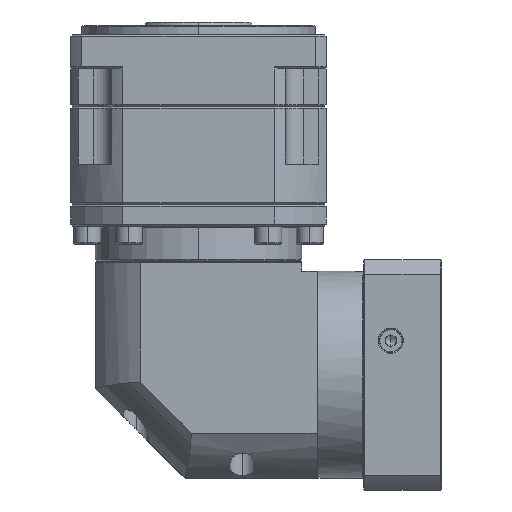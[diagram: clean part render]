
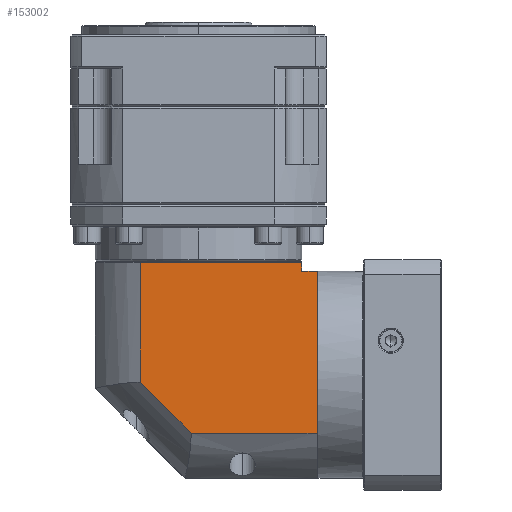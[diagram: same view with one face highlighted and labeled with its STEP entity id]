
A CAD part, left-side view. The second image highlights one B-rep face of the part: STEP entity #153002.
In plain terms, the highlighted planar face has unit normal (-1, 0, 0).
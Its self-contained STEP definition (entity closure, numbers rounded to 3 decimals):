
#5462 = LINE ( 'NONE', #150416, #97104 ) ;
#9288 = VERTEX_POINT ( 'NONE', #134437 ) ;
#10207 = LINE ( 'NONE', #170219, #151041 ) ;
#10886 = DIRECTION ( 'NONE',  ( 0., 1., 0. ) ) ;
#11070 = EDGE_CURVE ( 'NONE', #34000, #126487, #80692, .T. ) ;
#11681 = CARTESIAN_POINT ( 'NONE',  ( -256.489, -13.1, 6.374 ) ) ;
#14049 = EDGE_CURVE ( 'NONE', #9288, #74246, #160690, .T. ) ;
#25936 = LINE ( 'NONE', #66228, #156326 ) ;
#27418 = DIRECTION ( 'NONE',  ( 0., 0., 1. ) ) ;
#28991 = EDGE_CURVE ( 'NONE', #126487, #149435, #143994, .T. ) ;
#34000 = VERTEX_POINT ( 'NONE', #41930 ) ;
#34632 = DIRECTION ( 'NONE',  ( 1., 0., 0. ) ) ;
#35218 = DIRECTION ( 'NONE',  ( 0., 1., 0. ) ) ;
#36434 = CARTESIAN_POINT ( 'NONE',  ( -256.489, -128.1, 1.374 ) ) ;
#41930 = CARTESIAN_POINT ( 'NONE',  ( -256.489, -66.538, -88.526 ) ) ;
#48920 = CARTESIAN_POINT ( 'NONE',  ( -256.489, -13.1, 12.874 ) ) ;
#53315 = CARTESIAN_POINT ( 'NONE',  ( -256.489, -38.2, 12.874 ) ) ;
#54488 = VERTEX_POINT ( 'NONE', #83968 ) ;
#55028 = CARTESIAN_POINT ( 'NONE',  ( -256.489, -38.2, 6.374 ) ) ;
#59649 = VERTEX_POINT ( 'NONE', #64235 ) ;
#60983 = DIRECTION ( 'NONE',  ( 0., 1., 0. ) ) ;
#64235 = CARTESIAN_POINT ( 'NONE',  ( -256.489, -128.1, 6.374 ) ) ;
#65598 = EDGE_LOOP ( 'NONE', ( #162308, #130164, #148752, #148229, #99546, #79292, #138992 ) ) ;
#66228 = CARTESIAN_POINT ( 'NONE',  ( -256.489, -136.5, 12.874 ) ) ;
#67042 = DIRECTION ( 'NONE',  ( 0., 0., 1. ) ) ;
#74246 = VERTEX_POINT ( 'NONE', #97190 ) ;
#79292 = ORIENTED_EDGE ( 'NONE', *, *, #87664, .T. ) ;
#80692 = LINE ( 'NONE', #97457, #132030 ) ;
#80705 = DIRECTION ( 'NONE',  ( 0., -1., 0. ) ) ;
#83968 = CARTESIAN_POINT ( 'NONE',  ( -256.489, -136.5, -88.526 ) ) ;
#86569 = EDGE_CURVE ( 'NONE', #54488, #34000, #10207, .T. ) ;
#87664 = EDGE_CURVE ( 'NONE', #74246, #59649, #5462, .T. ) ;
#93718 = DIRECTION ( 'NONE',  ( 0., 0., -1. ) ) ;
#97104 = VECTOR ( 'NONE', #27418, 1000. ) ;
#97190 = CARTESIAN_POINT ( 'NONE',  ( -256.489, -128.1, 1.374 ) ) ;
#97457 = CARTESIAN_POINT ( 'NONE',  ( -256.489, -66.538, -88.526 ) ) ;
#99546 = ORIENTED_EDGE ( 'NONE', *, *, #14049, .T. ) ;
#103345 = EDGE_CURVE ( 'NONE', #149435, #59649, #130497, .T. ) ;
#116004 = DIRECTION ( 'NONE',  ( 0., 0.707, 0.707 ) ) ;
#124369 = VECTOR ( 'NONE', #10886, 1000. ) ;
#126487 = VERTEX_POINT ( 'NONE', #132984 ) ;
#130164 = ORIENTED_EDGE ( 'NONE', *, *, #11070, .F. ) ;
#130497 = LINE ( 'NONE', #11681, #156163 ) ;
#132030 = VECTOR ( 'NONE', #116004, 1000. ) ;
#132984 = CARTESIAN_POINT ( 'NONE',  ( -256.489, -38.2, -60.187 ) ) ;
#134437 = CARTESIAN_POINT ( 'NONE',  ( -256.489, -136.5, 1.374 ) ) ;
#138992 = ORIENTED_EDGE ( 'NONE', *, *, #103345, .F. ) ;
#142772 = PLANE ( 'NONE',  #144925 ) ;
#143994 = LINE ( 'NONE', #53315, #148238 ) ;
#144925 = AXIS2_PLACEMENT_3D ( 'NONE', #48920, #34632, #35218 ) ;
#148098 = FACE_OUTER_BOUND ( 'NONE', #65598, .T. ) ;
#148229 = ORIENTED_EDGE ( 'NONE', *, *, #150070, .F. ) ;
#148238 = VECTOR ( 'NONE', #67042, 1000. ) ;
#148752 = ORIENTED_EDGE ( 'NONE', *, *, #86569, .F. ) ;
#149435 = VERTEX_POINT ( 'NONE', #55028 ) ;
#150070 = EDGE_CURVE ( 'NONE', #9288, #54488, #25936, .T. ) ;
#150416 = CARTESIAN_POINT ( 'NONE',  ( -256.489, -128.1, -113.626 ) ) ;
#151041 = VECTOR ( 'NONE', #60983, 1000. ) ;
#153002 = ADVANCED_FACE ( 'NONE', ( #148098 ), #142772, .F. ) ;
#156163 = VECTOR ( 'NONE', #80705, 1000. ) ;
#156326 = VECTOR ( 'NONE', #93718, 1000. ) ;
#160690 = LINE ( 'NONE', #36434, #124369 ) ;
#162308 = ORIENTED_EDGE ( 'NONE', *, *, #28991, .F. ) ;
#170219 = CARTESIAN_POINT ( 'NONE',  ( -256.489, -13.1, -88.526 ) ) ;
